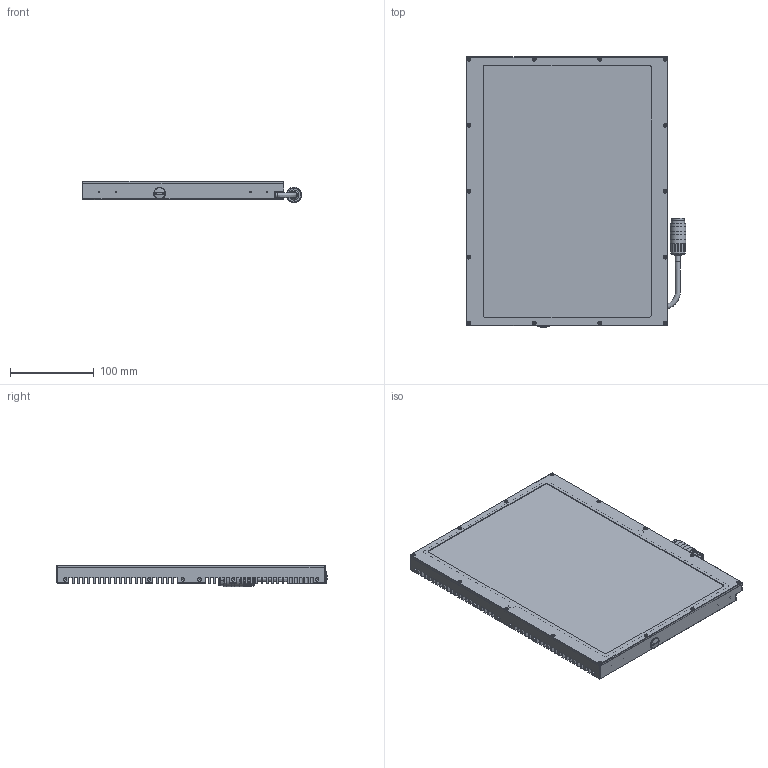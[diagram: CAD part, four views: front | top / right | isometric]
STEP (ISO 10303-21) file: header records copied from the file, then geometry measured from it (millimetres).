
FILE_DESCRIPTION(/* description */ ('CAx-IF Rec.Pracs.---Representation and Presentation of Product Manufacturing Information (PMI)---4.0---2014-10-13','CAx-IF Rec.Pracs.---3D Tessellated Geometry---0.4---2014-09-14','2;1'),/* implementation_level */ '2;1');
FILE_NAME(/* name */ 'LG3020-LG3020FL-V02',/* time_stamp */ '2019-12-03T11:01:55+01:00',/* author */ (''),/* organization */ ('iiM AG'),/* preprocessor_version */ 'ST-DEVELOPER v16.7',/* originating_system */ 'DEX',/* authorisation */ $);
FILE_SCHEMA (('AP242_MANAGED_MODEL_BASED_3D_ENGINEERING_MIM_LF { 1 0 10303 442 1 1 4 }'));
Products named in the file (1): LG3020-V02_MO
Bounding box: 261.29 x 321.95 x 25.79 mm (x, y, z)
Volume: 737402.2 mm3; surface area: 487691.1 mm2
Topology: 3 solids, 18 shells, 1368 faces, 3700 edges, 2384 vertices
Faces by surface type: plane 660, cylinder 449, cone 210, torus 18, bspline 18, sphere 13
Full cylindrical faces by diameter (mm): 1 x12, 1.567 x28, 2 x14, 2.1 x10, 2.11 x4, 2.459 x4, 2.6 x4, 3.8 x14, 4.134 x54, 6 x2, 6.2 x1, 8 x1, 9 x1, 11 x3, 11.89 x1, 14 x1, 15 x1, 16 x1, 17.5 x1, 18.5 x3, 18.6 x2, 49.5 x1, 50 x1, 51 x1
Entity records: 55221 total; most frequent: CARTESIAN_POINT 14307, ORIENTED_EDGE 6344, DIRECTION 6129, EDGE_CURVE 3172, VERTEX_POINT 2233, AXIS2_PLACEMENT_3D 2198, FACE_BOUND 1801, EDGE_LOOP 1746
